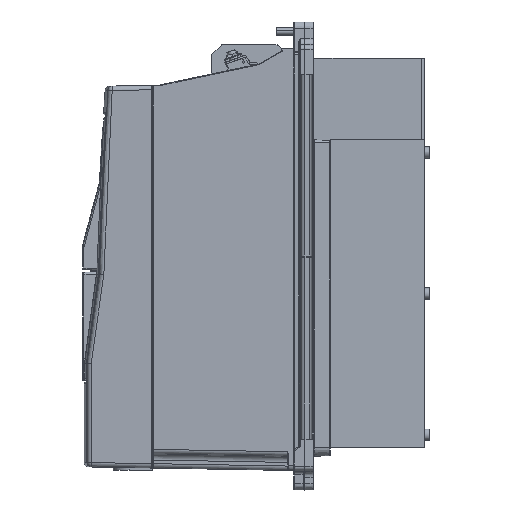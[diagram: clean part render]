
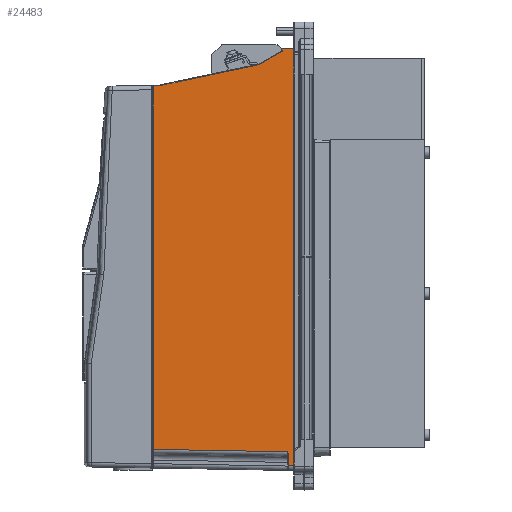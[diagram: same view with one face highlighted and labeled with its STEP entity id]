
A CAD part, left-side view. The second image highlights one B-rep face of the part: STEP entity #24483.
In plain terms, the highlighted planar face has unit normal (-1, 0.018, 0).
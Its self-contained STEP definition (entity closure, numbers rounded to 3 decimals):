
#592 = CARTESIAN_POINT ( 'NONE',  ( -110.747, -49.991, -165.921 ) ) ;
#1202 = CARTESIAN_POINT ( 'NONE',  ( -108.809, 58.009, 170. ) ) ;
#1373 = LINE ( 'NONE', #63079, #82801 ) ;
#1843 = VECTOR ( 'NONE', #59421, 1000. ) ;
#2043 = EDGE_CURVE ( 'NONE', #30975, #23732, #54063, .T. ) ;
#3804 = CARTESIAN_POINT ( 'NONE',  ( -108.8, 58.5, 170. ) ) ;
#4172 = EDGE_CURVE ( 'NONE', #26852, #74518, #87261, .T. ) ;
#6769 = CARTESIAN_POINT ( 'NONE',  ( -110.738, -49.482, -155.814 ) ) ;
#7774 = CARTESIAN_POINT ( 'NONE',  ( -108.889, 53.518, 136.593 ) ) ;
#8007 = LINE ( 'NONE', #592, #40910 ) ;
#8483 = CARTESIAN_POINT ( 'NONE',  ( -108.809, 58.009, -153.124 ) ) ;
#10210 =( BOUNDED_CURVE ( )  B_SPLINE_CURVE ( 3, ( #32892, #76420, #83850, #24504 ),
 .UNSPECIFIED., .F., .T. ) 
 B_SPLINE_CURVE_WITH_KNOTS ( ( 4, 4 ),
 ( 4.398, 4.712 ),
 .UNSPECIFIED. ) 
 CURVE ( )  GEOMETRIC_REPRESENTATION_ITEM ( )  RATIONAL_B_SPLINE_CURVE ( ( 1., 0.992, 0.992, 1. ) ) 
 REPRESENTATION_ITEM ( '' )  );
#10699 = VERTEX_POINT ( 'NONE', #71550 ) ;
#11050 = VECTOR ( 'NONE', #55770, 1000. ) ;
#11619 = EDGE_CURVE ( 'NONE', #10699, #30975, #55570, .T. ) ;
#13428 = EDGE_CURVE ( 'NONE', #36172, #75835, #14047, .T. ) ;
#14047 = LINE ( 'NONE', #88669, #1843 ) ;
#15593 = DIRECTION ( 'NONE',  ( 0., 0., -1. ) ) ;
#18184 = FACE_OUTER_BOUND ( 'NONE', #68601, .T. ) ;
#19637 = DIRECTION ( 'NONE',  ( 1., -0.018, 0. ) ) ;
#19854 = ORIENTED_EDGE ( 'NONE', *, *, #4172, .T. ) ;
#20973 = CARTESIAN_POINT ( 'NONE',  ( -110.73, -49.009, -154.992 ) ) ;
#22199 = VECTOR ( 'NONE', #92110, 1000. ) ;
#22369 = DIRECTION ( 'NONE',  ( -0.018, -1., -0.018 ) ) ;
#23631 = DIRECTION ( 'NONE',  ( 0.018, 1., -0.017 ) ) ;
#23732 = VERTEX_POINT ( 'NONE', #69654 ) ;
#24483 = ADVANCED_FACE ( 'NONE', ( #18184 ), #56656, .F. ) ;
#24504 = CARTESIAN_POINT ( 'NONE',  ( -110.332, -26.837, 153.723 ) ) ;
#25662 = LINE ( 'NONE', #70612, #11050 ) ;
#25895 = CARTESIAN_POINT ( 'NONE',  ( -110.649, -44.491, 163.917 ) ) ;
#26452 = ORIENTED_EDGE ( 'NONE', *, *, #30483, .T. ) ;
#26648 = ORIENTED_EDGE ( 'NONE', *, *, #70971, .T. ) ;
#26852 = VERTEX_POINT ( 'NONE', #20973 ) ;
#27638 = CARTESIAN_POINT ( 'NONE',  ( -110.747, -49.991, -157.617 ) ) ;
#28346 = EDGE_CURVE ( 'NONE', #91904, #38697, #32599, .T. ) ;
#29840 = CARTESIAN_POINT ( 'NONE',  ( -110.326, -26.545, 153.611 ) ) ;
#29967 = CARTESIAN_POINT ( 'NONE',  ( -108.809, 58.009, 136.509 ) ) ;
#29973 = CARTESIAN_POINT ( 'NONE',  ( -110.73, -49.009, -154.992 ) ) ;
#30483 = EDGE_CURVE ( 'NONE', #91974, #38697, #92281, .T. ) ;
#30975 = VERTEX_POINT ( 'NONE', #53333 ) ;
#31482 = VECTOR ( 'NONE', #22369, 1000. ) ;
#32599 =( BOUNDED_CURVE ( )  B_SPLINE_CURVE ( 3, ( #90313, #52688, #7774, #37899 ),
 .UNSPECIFIED., .F., .T. ) 
 B_SPLINE_CURVE_WITH_KNOTS ( ( 4, 4 ),
 ( 1.588, 1.78 ),
 .UNSPECIFIED. ) 
 CURVE ( )  GEOMETRIC_REPRESENTATION_ITEM ( )  RATIONAL_B_SPLINE_CURVE ( ( 1., 0.997, 0.997, 1. ) ) 
 REPRESENTATION_ITEM ( '' )  );
#32892 = CARTESIAN_POINT ( 'NONE',  ( -110.326, -26.545, 153.611 ) ) ;
#33155 = AXIS2_PLACEMENT_3D ( 'NONE', #3804, #19637, #42815 ) ;
#34673 = ORIENTED_EDGE ( 'NONE', *, *, #94860, .T. ) ;
#35243 = ORIENTED_EDGE ( 'NONE', *, *, #81847, .T. ) ;
#36172 = VERTEX_POINT ( 'NONE', #58476 ) ;
#36412 = VECTOR ( 'NONE', #15593, 1000. ) ;
#37640 =( BOUNDED_CURVE ( )  B_SPLINE_CURVE ( 3, ( #25895, #56007, #76590, #38017 ),
 .UNSPECIFIED., .F., .T. ) 
 B_SPLINE_CURVE_WITH_KNOTS ( ( 4, 4 ),
 ( 4.712, 5.76 ),
 .UNSPECIFIED. ) 
 CURVE ( )  GEOMETRIC_REPRESENTATION_ITEM ( )  RATIONAL_B_SPLINE_CURVE ( ( 1., 0.911, 0.911, 1. ) ) 
 REPRESENTATION_ITEM ( '' )  );
#37899 = CARTESIAN_POINT ( 'NONE',  ( -108.891, 53.455, 136.607 ) ) ;
#38017 = CARTESIAN_POINT ( 'NONE',  ( -110.658, -44.991, 164.784 ) ) ;
#38537 = ORIENTED_EDGE ( 'NONE', *, *, #28346, .F. ) ;
#38697 = VERTEX_POINT ( 'NONE', #40508 ) ;
#39300 = CARTESIAN_POINT ( 'NONE',  ( -110.747, -49.991, -165.929 ) ) ;
#40508 = CARTESIAN_POINT ( 'NONE',  ( -108.891, 53.455, 136.607 ) ) ;
#40910 = VECTOR ( 'NONE', #46026, 1000. ) ;
#41728 = CARTESIAN_POINT ( 'NONE',  ( -108.8, 58.5, 166. ) ) ;
#42815 = DIRECTION ( 'NONE',  ( 0.018, 1., 0. ) ) ;
#43424 = EDGE_CURVE ( 'NONE', #10699, #93979, #25662, .T. ) ;
#43722 = CARTESIAN_POINT ( 'NONE',  ( -110.332, -26.837, 153.723 ) ) ;
#46026 = DIRECTION ( 'NONE',  ( 0., 0., -1. ) ) ;
#46255 = CARTESIAN_POINT ( 'NONE',  ( -110.745, -49.84, -156.69 ) ) ;
#47054 = VERTEX_POINT ( 'NONE', #39300 ) ;
#51536 = EDGE_CURVE ( 'NONE', #91904, #85039, #1373, .T. ) ;
#51705 = CARTESIAN_POINT ( 'NONE',  ( -110.819, -54., -166.001 ) ) ;
#52688 = CARTESIAN_POINT ( 'NONE',  ( -108.888, 53.582, 136.586 ) ) ;
#53333 = CARTESIAN_POINT ( 'NONE',  ( -110.658, -44.991, 166. ) ) ;
#54063 = LINE ( 'NONE', #92149, #36412 ) ;
#55570 = LINE ( 'NONE', #41728, #65797 ) ;
#55770 = DIRECTION ( 'NONE',  ( 0., 0., -1. ) ) ;
#56007 = CARTESIAN_POINT ( 'NONE',  ( -110.654, -44.808, 164.1 ) ) ;
#56122 = LINE ( 'NONE', #94199, #57256 ) ;
#56656 = PLANE ( 'NONE',  #33155 ) ;
#57256 = VECTOR ( 'NONE', #94681, 1000. ) ;
#58476 = CARTESIAN_POINT ( 'NONE',  ( -110.649, -44.491, 163.917 ) ) ;
#59421 = DIRECTION ( 'NONE',  ( 0.016, 0.866, -0.5 ) ) ;
#61591 = CARTESIAN_POINT ( 'NONE',  ( -108.926, 51.493, 137.024 ) ) ;
#62131 = CARTESIAN_POINT ( 'NONE',  ( -110.747, -49.991, -157.617 ) ) ;
#63079 = CARTESIAN_POINT ( 'NONE',  ( -108.81, 57.916, 136.51 ) ) ;
#65797 = VECTOR ( 'NONE', #78852, 1000. ) ;
#66360 = ORIENTED_EDGE ( 'NONE', *, *, #2043, .T. ) ;
#66994 = CARTESIAN_POINT ( 'NONE',  ( -110.747, -49.991, -157.379 ) ) ;
#68270 = ORIENTED_EDGE ( 'NONE', *, *, #11619, .T. ) ;
#68601 = EDGE_LOOP ( 'NONE', ( #97062, #68270, #66360, #75310, #72663, #88392, #26452, #38537, #82646, #76066, #26648, #19854, #35243, #34673 ) ) ;
#68728 = CARTESIAN_POINT ( 'NONE',  ( -108.693, 64.434, -163.895 ) ) ;
#69654 = CARTESIAN_POINT ( 'NONE',  ( -110.658, -44.991, 164.784 ) ) ;
#70612 = CARTESIAN_POINT ( 'NONE',  ( -110.819, -54., 170. ) ) ;
#70971 = EDGE_CURVE ( 'NONE', #83621, #26852, #56122, .T. ) ;
#71550 = CARTESIAN_POINT ( 'NONE',  ( -110.819, -54., 166. ) ) ;
#72663 = ORIENTED_EDGE ( 'NONE', *, *, #13428, .T. ) ;
#74518 = VERTEX_POINT ( 'NONE', #62131 ) ;
#75310 = ORIENTED_EDGE ( 'NONE', *, *, #97772, .F. ) ;
#75835 = VERTEX_POINT ( 'NONE', #43722 ) ;
#75948 = CARTESIAN_POINT ( 'NONE',  ( -110.734, -49.246, -155.402 ) ) ;
#76066 = ORIENTED_EDGE ( 'NONE', *, *, #96057, .T. ) ;
#76420 = CARTESIAN_POINT ( 'NONE',  ( -110.328, -26.648, 153.633 ) ) ;
#76488 = DIRECTION ( 'NONE',  ( 0.018, 0.978, -0.208 ) ) ;
#76590 = CARTESIAN_POINT ( 'NONE',  ( -110.658, -44.991, 164.418 ) ) ;
#78852 = DIRECTION ( 'NONE',  ( 0.018, 1., 0. ) ) ;
#81847 = EDGE_CURVE ( 'NONE', #74518, #47054, #8007, .T. ) ;
#82646 = ORIENTED_EDGE ( 'NONE', *, *, #51536, .T. ) ;
#82801 = VECTOR ( 'NONE', #23631, 1000. ) ;
#83365 = EDGE_CURVE ( 'NONE', #91974, #75835, #10210, .T. ) ;
#83621 = VERTEX_POINT ( 'NONE', #8483 ) ;
#83850 = CARTESIAN_POINT ( 'NONE',  ( -110.33, -26.746, 153.671 ) ) ;
#83862 = CARTESIAN_POINT ( 'NONE',  ( -110.743, -49.76, -156.465 ) ) ;
#85039 = VERTEX_POINT ( 'NONE', #29967 ) ;
#85937 = LINE ( 'NONE', #68728, #31482 ) ;
#87261 = B_SPLINE_CURVE_WITH_KNOTS ( 'NONE', 3,
 ( #29973, #75948, #6769, #83862, #46255, #90272, #66994, #27638 ),
 .UNSPECIFIED., .F., .F.,
 ( 4, 2, 2, 4 ),
 ( 0., 0.001, 0.002, 0.003 ),
 .UNSPECIFIED. ) ;
#88392 = ORIENTED_EDGE ( 'NONE', *, *, #83365, .F. ) ;
#88669 = CARTESIAN_POINT ( 'NONE',  ( -110.33, -26.763, 153.681 ) ) ;
#89332 = LINE ( 'NONE', #1202, #22199 ) ;
#90272 = CARTESIAN_POINT ( 'NONE',  ( -110.747, -49.956, -157.147 ) ) ;
#90313 = CARTESIAN_POINT ( 'NONE',  ( -108.887, 53.646, 136.585 ) ) ;
#91904 = VERTEX_POINT ( 'NONE', #94644 ) ;
#91974 = VERTEX_POINT ( 'NONE', #29840 ) ;
#92110 = DIRECTION ( 'NONE',  ( 0., 0., -1. ) ) ;
#92149 = CARTESIAN_POINT ( 'NONE',  ( -110.658, -44.991, 170. ) ) ;
#92281 = LINE ( 'NONE', #61591, #97067 ) ;
#93979 = VERTEX_POINT ( 'NONE', #51705 ) ;
#94199 = CARTESIAN_POINT ( 'NONE',  ( -108.699, 64.136, -153.017 ) ) ;
#94644 = CARTESIAN_POINT ( 'NONE',  ( -108.887, 53.646, 136.585 ) ) ;
#94681 = DIRECTION ( 'NONE',  ( -0.018, -1., -0.017 ) ) ;
#94860 = EDGE_CURVE ( 'NONE', #47054, #93979, #85937, .T. ) ;
#96057 = EDGE_CURVE ( 'NONE', #85039, #83621, #89332, .T. ) ;
#97062 = ORIENTED_EDGE ( 'NONE', *, *, #43424, .F. ) ;
#97067 = VECTOR ( 'NONE', #76488, 1000. ) ;
#97772 = EDGE_CURVE ( 'NONE', #36172, #23732, #37640, .T. ) ;
